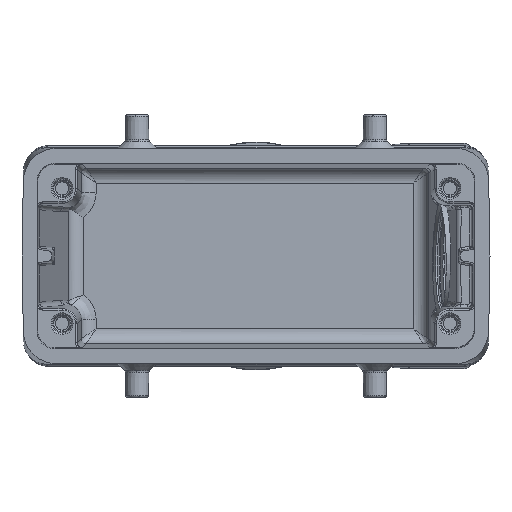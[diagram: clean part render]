
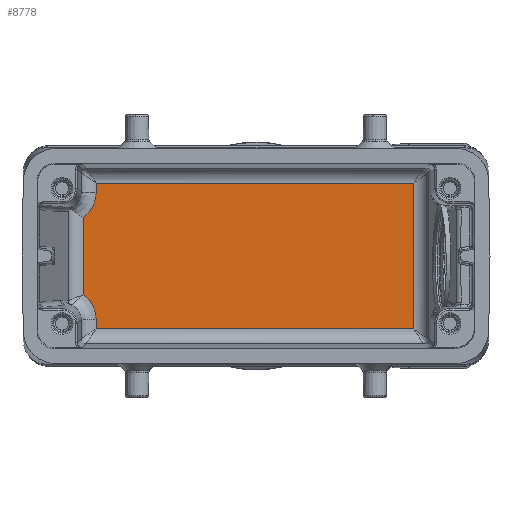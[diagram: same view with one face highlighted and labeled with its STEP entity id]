
A CAD part, front view. The second image highlights one B-rep face of the part: STEP entity #8778.
In plain terms, the highlighted planar face has unit normal (0, -1, 0).
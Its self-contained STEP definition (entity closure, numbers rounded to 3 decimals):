
#89 = CARTESIAN_POINT ( 'NONE',  ( -31.941, 70., -18.5 ) ) ;
#257 = VERTEX_POINT ( 'NONE', #27104 ) ;
#521 = LINE ( 'NONE', #89, #15163 ) ;
#775 = CARTESIAN_POINT ( 'NONE',  ( -32.919, 70., 9.393 ) ) ;
#1017 = VERTEX_POINT ( 'NONE', #31468 ) ;
#1352 = CARTESIAN_POINT ( 'NONE',  ( -34.509, 70., -18.5 ) ) ;
#2021 = ORIENTED_EDGE ( 'NONE', *, *, #16295, .T. ) ;
#3023 = ORIENTED_EDGE ( 'NONE', *, *, #31788, .T. ) ;
#3210 = DIRECTION ( 'NONE',  ( 0., -1., 0. ) ) ;
#3257 = CARTESIAN_POINT ( 'NONE',  ( -31.941, 70., -18.5 ) ) ;
#3342 = CARTESIAN_POINT ( 'NONE',  ( -33.131, 70., 9.102 ) ) ;
#4125 = DIRECTION ( 'NONE',  ( -1., 0., 0. ) ) ;
#4364 = LINE ( 'NONE', #29489, #10734 ) ;
#4976 = ORIENTED_EDGE ( 'NONE', *, *, #26154, .T. ) ;
#5164 = CARTESIAN_POINT ( 'NONE',  ( -34.31, 70., -7.909 ) ) ;
#5234 = EDGE_CURVE ( 'NONE', #32851, #257, #15039, .T. ) ;
#5799 = CARTESIAN_POINT ( 'NONE',  ( -32.017, 70., 11.731 ) ) ;
#5911 = CARTESIAN_POINT ( 'NONE',  ( -34.509, 70.013, 7.769 ) ) ;
#6306 = DIRECTION ( 'NONE',  ( 1., 0., 0. ) ) ;
#8231 = PLANE ( 'NONE',  #20784 ) ;
#8346 = VECTOR ( 'NONE', #31583, 1000. ) ;
#8778 = ADVANCED_FACE ( 'NONE', ( #17169 ), #8231, .T. ) ;
#9776 = LINE ( 'NONE', #16851, #10142 ) ;
#10142 = VECTOR ( 'NONE', #19408, 1000. ) ;
#10613 = CARTESIAN_POINT ( 'NONE',  ( -33.766, 70., -8.381 ) ) ;
#10723 = CARTESIAN_POINT ( 'NONE',  ( -32.142, 70., -11.146 ) ) ;
#10734 = VECTOR ( 'NONE', #4125, 1000. ) ;
#11222 = CARTESIAN_POINT ( 'NONE',  ( -32.399, 70., 10.342 ) ) ;
#11411 = ORIENTED_EDGE ( 'NONE', *, *, #5234, .T. ) ;
#11526 = VERTEX_POINT ( 'NONE', #27971 ) ;
#11658 = LINE ( 'NONE', #21526, #27570 ) ;
#12736 = VERTEX_POINT ( 'NONE', #19270 ) ;
#12798 = CARTESIAN_POINT ( 'NONE',  ( -33.597, 70., -8.551 ) ) ;
#13473 = CARTESIAN_POINT ( 'NONE',  ( -32.845, 70., -9.488 ) ) ;
#13676 = VERTEX_POINT ( 'NONE', #25917 ) ;
#13772 = CARTESIAN_POINT ( 'NONE',  ( -33.357, 70., 8.818 ) ) ;
#14236 = CARTESIAN_POINT ( 'NONE',  ( 31.477, 70., -14.564 ) ) ;
#14975 = EDGE_CURVE ( 'NONE', #13676, #1017, #23308, .T. ) ;
#15039 = B_SPLINE_CURVE_WITH_KNOTS ( 'NONE', 3,
 ( #20729, #5164, #27972, #10613, #12798, #30627, #26298, #13473, #18487, #26188, #20964, #21294, #10723, #15922, #30955, #28870 ),
 .UNSPECIFIED., .F., .F.,
 ( 4, 1, 2, 2, 2, 1, 2, 2, 4 ),
 ( 0., 0.125, 0.188, 0.25, 0.5, 0.625, 0.688, 0.75, 1. ),
 .UNSPECIFIED. ) ;
#15163 = VECTOR ( 'NONE', #17549, 1000. ) ;
#15370 = LINE ( 'NONE', #3257, #26981 ) ;
#15922 = CARTESIAN_POINT ( 'NONE',  ( -32., 70., -11.727 ) ) ;
#16000 = CARTESIAN_POINT ( 'NONE',  ( -32.733, 70., 9.701 ) ) ;
#16119 = CARTESIAN_POINT ( 'NONE',  ( -31.942, 70., 12.447 ) ) ;
#16295 = EDGE_CURVE ( 'NONE', #22739, #12736, #9776, .T. ) ;
#16851 = CARTESIAN_POINT ( 'NONE',  ( 31.477, 70., -18.5 ) ) ;
#17169 = FACE_OUTER_BOUND ( 'NONE', #25105, .T. ) ;
#17337 = ORIENTED_EDGE ( 'NONE', *, *, #31216, .T. ) ;
#17549 = DIRECTION ( 'NONE',  ( 0., 0., -1. ) ) ;
#18487 = CARTESIAN_POINT ( 'NONE',  ( -32.51, 70., -10.129 ) ) ;
#18515 = CARTESIAN_POINT ( 'NONE',  ( -31.941, 70., -14.564 ) ) ;
#18762 = CARTESIAN_POINT ( 'NONE',  ( -32.085, 70., 11.38 ) ) ;
#18792 = DIRECTION ( 'NONE',  ( 0., 0., -1. ) ) ;
#18965 = VERTEX_POINT ( 'NONE', #18515 ) ;
#19270 = CARTESIAN_POINT ( 'NONE',  ( 31.477, 70., 14.564 ) ) ;
#19408 = DIRECTION ( 'NONE',  ( 0., 0., 1. ) ) ;
#20729 = CARTESIAN_POINT ( 'NONE',  ( -34.509, 70.011, -7.769 ) ) ;
#20784 = AXIS2_PLACEMENT_3D ( 'NONE', #26350, #3210, #31441 ) ;
#20964 = CARTESIAN_POINT ( 'NONE',  ( -32.246, 70., -10.798 ) ) ;
#21144 = CARTESIAN_POINT ( 'NONE',  ( -34.11, 70., 8.049 ) ) ;
#21294 = CARTESIAN_POINT ( 'NONE',  ( -32.175, 70., -11.028 ) ) ;
#21501 = CARTESIAN_POINT ( 'NONE',  ( -34.509, 70.011, -7.769 ) ) ;
#21526 = CARTESIAN_POINT ( 'NONE',  ( -51.563, 70., -14.564 ) ) ;
#22739 = VERTEX_POINT ( 'NONE', #14236 ) ;
#22912 = EDGE_CURVE ( 'NONE', #12736, #11526, #4364, .T. ) ;
#23308 = B_SPLINE_CURVE_WITH_KNOTS ( 'NONE', 3,
 ( #28719, #16119, #28944, #5799, #23771, #18762, #26152, #11222, #16000, #775, #3342, #26495, #13772, #28832, #21144, #5911 ),
 .UNSPECIFIED., .F., .F.,
 ( 4, 1, 2, 2, 2, 1, 2, 2, 4 ),
 ( 0., 0.125, 0.188, 0.25, 0.5, 0.625, 0.688, 0.75, 1. ),
 .UNSPECIFIED. ) ;
#23473 = EDGE_CURVE ( 'NONE', #1017, #32851, #28663, .T. ) ;
#23771 = CARTESIAN_POINT ( 'NONE',  ( -32.06, 70., 11.495 ) ) ;
#24517 = ORIENTED_EDGE ( 'NONE', *, *, #14975, .T. ) ;
#25105 = EDGE_LOOP ( 'NONE', ( #2021, #28543, #17337, #24517, #26915, #11411, #4976, #3023 ) ) ;
#25917 = CARTESIAN_POINT ( 'NONE',  ( -31.941, 70., 12.691 ) ) ;
#26152 = CARTESIAN_POINT ( 'NONE',  ( -32.229, 70., 10.792 ) ) ;
#26154 = EDGE_CURVE ( 'NONE', #257, #18965, #15370, .T. ) ;
#26188 = CARTESIAN_POINT ( 'NONE',  ( -32.363, 70., -10.458 ) ) ;
#26298 = CARTESIAN_POINT ( 'NONE',  ( -33.117, 70., -9.091 ) ) ;
#26350 = CARTESIAN_POINT ( 'NONE',  ( -51.563, 70., -18.5 ) ) ;
#26495 = CARTESIAN_POINT ( 'NONE',  ( -33.279, 70., 8.912 ) ) ;
#26915 = ORIENTED_EDGE ( 'NONE', *, *, #23473, .T. ) ;
#26981 = VECTOR ( 'NONE', #18792, 1000. ) ;
#27104 = CARTESIAN_POINT ( 'NONE',  ( -31.941, 70., -12.691 ) ) ;
#27570 = VECTOR ( 'NONE', #6306, 1000. ) ;
#27971 = CARTESIAN_POINT ( 'NONE',  ( -31.941, 70., 14.564 ) ) ;
#27972 = CARTESIAN_POINT ( 'NONE',  ( -34.026, 70., -8.133 ) ) ;
#28543 = ORIENTED_EDGE ( 'NONE', *, *, #22912, .T. ) ;
#28663 = LINE ( 'NONE', #1352, #8346 ) ;
#28719 = CARTESIAN_POINT ( 'NONE',  ( -31.941, 70., 12.691 ) ) ;
#28832 = CARTESIAN_POINT ( 'NONE',  ( -33.753, 70., 8.368 ) ) ;
#28870 = CARTESIAN_POINT ( 'NONE',  ( -31.941, 70., -12.691 ) ) ;
#28944 = CARTESIAN_POINT ( 'NONE',  ( -31.964, 70., 12.086 ) ) ;
#29489 = CARTESIAN_POINT ( 'NONE',  ( -265.727, 70., 14.564 ) ) ;
#30627 = CARTESIAN_POINT ( 'NONE',  ( -33.516, 70., -8.637 ) ) ;
#30955 = CARTESIAN_POINT ( 'NONE',  ( -31.942, 70., -12.203 ) ) ;
#31216 = EDGE_CURVE ( 'NONE', #11526, #13676, #521, .T. ) ;
#31441 = DIRECTION ( 'NONE',  ( 0., 0., -1. ) ) ;
#31468 = CARTESIAN_POINT ( 'NONE',  ( -34.509, 70.013, 7.769 ) ) ;
#31583 = DIRECTION ( 'NONE',  ( 0., 0., -1. ) ) ;
#31788 = EDGE_CURVE ( 'NONE', #18965, #22739, #11658, .T. ) ;
#32851 = VERTEX_POINT ( 'NONE', #21501 ) ;
